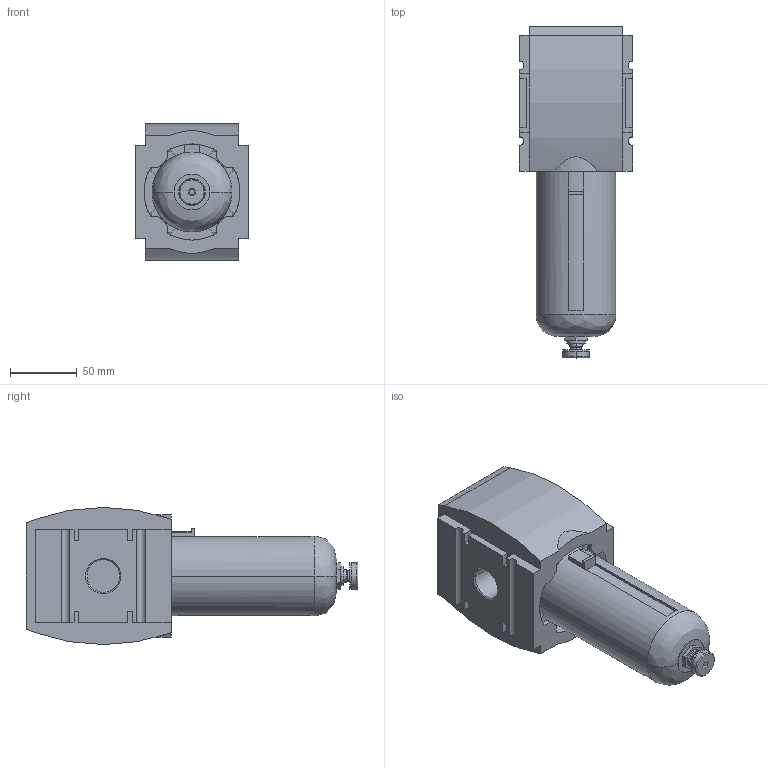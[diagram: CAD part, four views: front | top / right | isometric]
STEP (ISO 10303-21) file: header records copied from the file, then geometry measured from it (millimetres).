
FILE_DESCRIPTION((''),'2;1');
FILE_NAME('R412009000_ASM','2019-08-28T',('PDH2HC'),(''),'CREO PARAMETRIC BY PTC INC, 2016260','CREO PARAMETRIC BY PTC INC, 2016260','');
FILE_SCHEMA(('CONFIG_CONTROL_DESIGN'));
Length unit declared in the file: millimetre
Products named in the file (4): R412009000; AS5_RES_FILTER-SEMI; AS5_DRAIN_KNOB_PC; R412009000_ASM
Assembly tree (3 placements, depth 2):
  R412009000_ASM
    R412009000
    AS5_RES_FILTER-SEMI
    AS5_DRAIN_KNOB_PC
Bounding box: 85 x 249.2 x 103 mm (x, y, z)
Volume: 1128981.8 mm3; surface area: 104902.1 mm2
Topology: 3 solids, 3 shells, 202 faces, 508 edges, 332 vertices
Faces by surface type: plane 138, cylinder 48, cone 12, bspline 2, torus 2
Entity records: 6287 total; most frequent: CARTESIAN_POINT 1191, DIRECTION 1062, ORIENTED_EDGE 1016, EDGE_CURVE 508, VECTOR 364, LINE 364, AXIS2_PLACEMENT_3D 349, VERTEX_POINT 332
